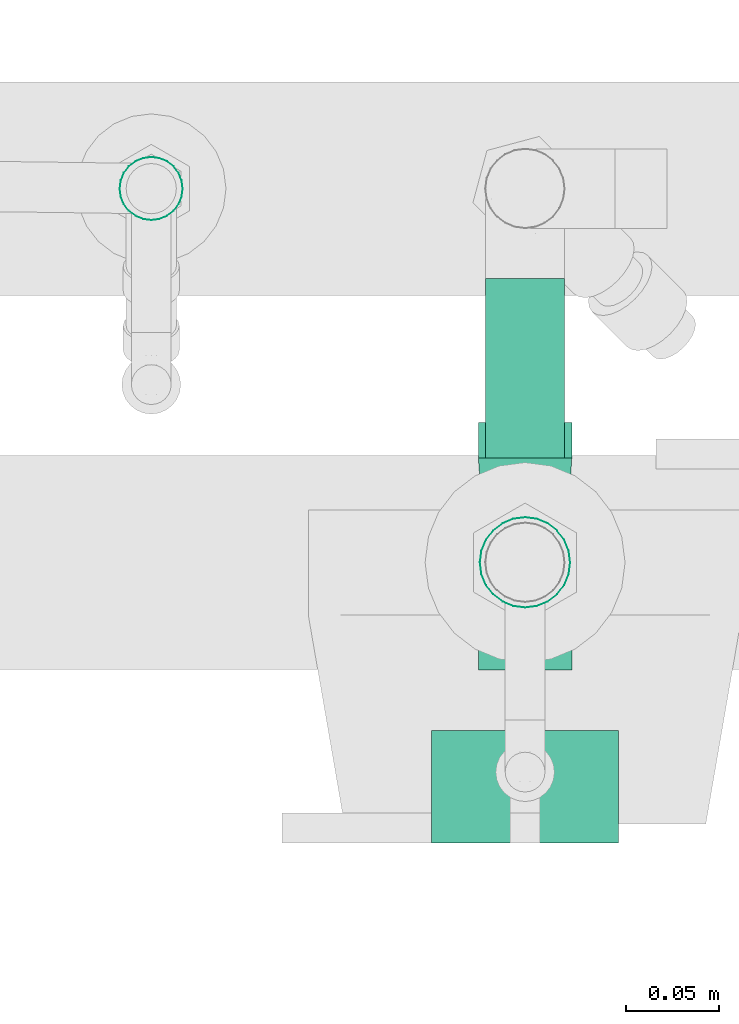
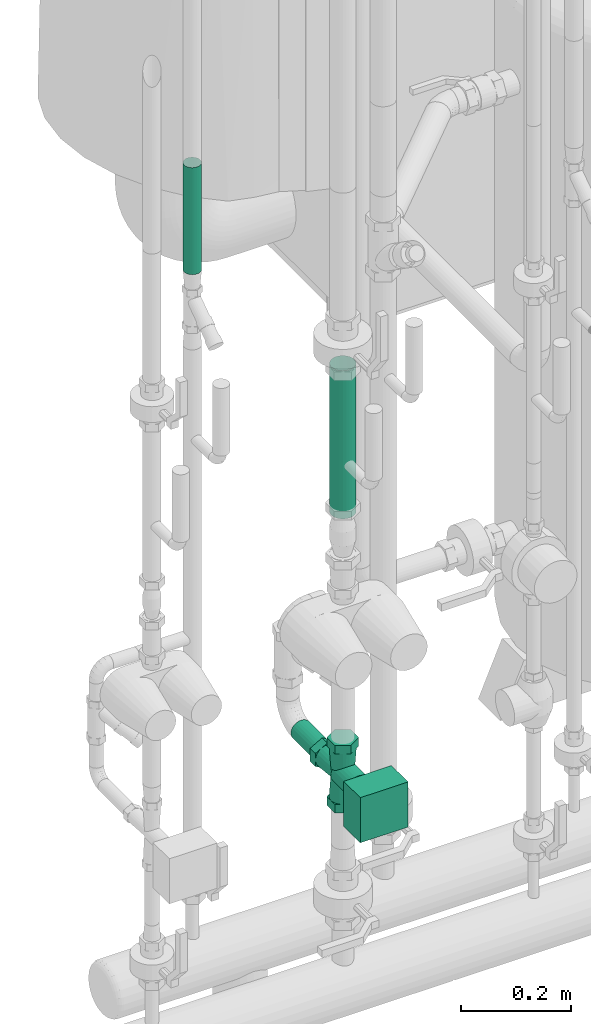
# One storey, part 257 of 374: 3 flow segments, 1 flow controller.
"""IFC2X3 building model written with IfcOpenShell, lengths in metres."""

from ifc_helpers import new_model, si_unit, direction, origin, place, context, subcontext, project, spatial, open_shell, surface_model, source, transform, mapped, element, save


model = new_model("IFC2X3")

# Units and contexts
model_context = context("Model", 3, precision=1e-05, world=origin(), true_north=direction((-0.4480736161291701, 0.8939966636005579)))
body_context = subcontext(model_context, "Body", "Model", "MODEL_VIEW")
ifc_project = project(units=[si_unit("LENGTHUNIT", "METRE"), si_unit("AREAUNIT", "SQUARE_METRE"), si_unit("VOLUMEUNIT", "CUBIC_METRE"), si_unit("PLANEANGLEUNIT", "RADIAN"), si_unit("THERMODYNAMICTEMPERATUREUNIT", "KELVIN"), si_unit("MASSUNIT", "GRAM", prefix="KILO"), si_unit("TIMEUNIT", "SECOND")], contexts=[model_context])

# Site, building, storey
site_placement = place(None, origin())
site = spatial("IfcSite", under=ifc_project, at=site_placement, Name="Site 1", CompositionType="ELEMENT")
building_placement = place(site_placement, origin())
building = spatial("IfcBuilding", under=site, at=building_placement, Name="Undefined", CompositionType="ELEMENT")
storey_placement = place(building_placement, origin())
storey = spatial("IfcBuildingStorey", under=building, at=storey_placement, Name="Rez de chauss\x8ee", CompositionType="ELEMENT", Elevation=0.0)

# Flow controller
shared_shape_1 = source(origin(), body_context, "Body", "SurfaceModel", [
    surface_model("IfcFaceBasedSurfaceModel", [(0.0, 0.09999999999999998, 0.0), (0.0, 0.0, 0.0), (0.10000000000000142, 8.8817842e-16, 1.776356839e-15), (0.10000000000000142, 0.09999999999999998, 0.0), (0.10000000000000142, 0.0, 0.05999999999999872), (0.10000000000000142, 0.09999999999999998, 0.05999999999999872), (0.0, 0.0, 0.05999999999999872), (0.0, 0.09999999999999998, 0.05999999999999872), (0.02499999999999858, 0.125, -0.1044337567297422), (0.02499999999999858, 0.125, -0.07556624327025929), (0.02499999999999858, 0.1059, -0.07556624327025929), (0.02499999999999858, 0.1059, -0.1044337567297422), (0.04999999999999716, 0.125, -0.11886751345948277), (0.04999999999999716, 0.1059, -0.11886751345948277), (0.07499999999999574, 0.125, -0.1044337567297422), (0.07499999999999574, 0.1059, -0.1044337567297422), (0.07499999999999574, 0.125, -0.07556624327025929), (0.07499999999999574, 0.1059, -0.07556624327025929), (0.04999999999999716, 0.125, -0.06113248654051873), (0.04999999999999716, 0.1059, -0.06113248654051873), (0.04999999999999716, 0.1059, -0.11500000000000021), (0.05647047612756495, 0.1059, -0.11414814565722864), (0.05548696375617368, 0.050000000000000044, -0.11047762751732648), (0.04999999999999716, 0.050000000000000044, -0.11119999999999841), (0.0625, 0.1059, -0.11165063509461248), (0.060600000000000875, 0.050000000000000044, -0.10835973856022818), (0.06767766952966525, 0.1059, -0.1076776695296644), (0.06499066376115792, 0.050000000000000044, -0.10499066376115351), (0.07165063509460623, 0.1059, -0.10250000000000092), (0.06835973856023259, 0.050000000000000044, -0.10060000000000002), (0.07414814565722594, 0.1059, -0.0964704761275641), (0.07047762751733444, 0.050000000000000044, -0.09548696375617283), (0.07499999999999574, 0.1059, -0.09000000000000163), (0.07120000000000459, 0.050000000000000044, -0.08999999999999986), (0.07414814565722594, 0.1059, -0.08352952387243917), (0.07047762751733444, 0.050000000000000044, -0.08451303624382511), (0.07165063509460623, 0.1059, -0.07750000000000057), (0.06835973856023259, 0.050000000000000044, -0.07939999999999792), (0.06767766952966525, 0.1059, -0.07232233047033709), (0.06499066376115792, 0.050000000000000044, -0.07500933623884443), (0.0625, 0.1059, -0.06834936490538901), (0.060600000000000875, 0.050000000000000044, -0.07164026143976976), (0.05647047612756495, 0.1059, -0.06585185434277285), (0.05548696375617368, 0.050000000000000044, -0.06952237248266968), (0.04999999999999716, 0.1059, -0.06500000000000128), (0.04999999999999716, 0.050000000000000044, -0.06879999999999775), (0.04352952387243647, 0.1059, -0.06585185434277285), (0.04451303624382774, 0.050000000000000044, -0.06952237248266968), (0.03750000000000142, 0.1059, -0.06834936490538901), (0.039400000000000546, 0.050000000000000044, -0.07164026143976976), (0.03232233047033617, 0.1059, -0.07232233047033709), (0.03500933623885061, 0.050000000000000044, -0.07500933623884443), (0.028349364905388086, 0.1059, -0.07750000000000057), (0.031640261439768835, 0.050000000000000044, -0.07939999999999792), (0.025851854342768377, 0.1059, -0.08352952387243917), (0.02952237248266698, 0.050000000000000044, -0.08451303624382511), (0.02499999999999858, 0.1059, -0.09000000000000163), (0.028800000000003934, 0.050000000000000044, -0.08999999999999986), (0.025851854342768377, 0.1059, -0.0964704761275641), (0.02952237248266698, 0.050000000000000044, -0.09548696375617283), (0.028349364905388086, 0.1059, -0.10250000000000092), (0.031640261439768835, 0.050000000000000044, -0.10060000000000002), (0.03232233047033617, 0.1059, -0.1076776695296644), (0.03500933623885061, 0.050000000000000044, -0.10499066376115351), (0.03750000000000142, 0.1059, -0.11165063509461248), (0.039400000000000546, 0.050000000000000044, -0.10835973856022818), (0.04352952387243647, 0.1059, -0.11414814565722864), (0.04451303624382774, 0.050000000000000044, -0.11047762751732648), (0.05647047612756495, -0.005899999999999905, -0.11414814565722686), (0.05000000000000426, -0.005899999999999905, -0.11500000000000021), (0.0625, -0.005899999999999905, -0.1116506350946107), (0.06767766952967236, -0.005899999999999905, -0.1076776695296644), (0.07165063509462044, -0.005899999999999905, -0.10250000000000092), (0.07414814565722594, -0.005899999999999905, -0.0964704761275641), (0.07499999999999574, -0.005899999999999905, -0.09000000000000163), (0.07414814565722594, -0.005899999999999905, -0.08352952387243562), (0.07165063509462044, -0.005899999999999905, -0.07749999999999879), (0.06767766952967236, -0.005899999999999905, -0.07232233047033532), (0.0625, -0.005899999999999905, -0.06834936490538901), (0.05647047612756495, -0.005899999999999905, -0.06585185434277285), (0.05000000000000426, -0.005899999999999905, -0.0649999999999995), (0.043529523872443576, -0.005899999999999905, -0.06585185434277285), (0.037500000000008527, -0.005899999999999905, -0.06834936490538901), (0.032322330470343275, -0.005899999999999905, -0.07232233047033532), (0.028349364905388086, -0.005899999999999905, -0.07749999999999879), (0.025851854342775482, -0.005899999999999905, -0.08352952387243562), (0.025000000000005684, -0.005899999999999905, -0.09000000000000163), (0.025851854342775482, -0.005899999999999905, -0.0964704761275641), (0.028349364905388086, -0.005899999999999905, -0.10250000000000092), (0.032322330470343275, -0.005899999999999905, -0.1076776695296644), (0.037500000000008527, -0.005899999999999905, -0.1116506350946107), (0.043529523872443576, -0.005899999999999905, -0.11414814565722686), (0.02499999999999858, -0.005900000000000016, -0.1044337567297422), (0.02499999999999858, -0.005900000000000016, -0.07556624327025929), (0.02499999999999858, -0.025000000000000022, -0.07556624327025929), (0.02499999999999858, -0.025000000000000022, -0.1044337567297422), (0.04999999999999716, -0.005900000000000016, -0.11886751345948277), (0.04999999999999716, -0.025000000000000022, -0.11886751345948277), (0.07499999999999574, -0.005900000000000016, -0.1044337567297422), (0.07499999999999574, -0.025000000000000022, -0.1044337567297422), (0.07499999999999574, -0.005900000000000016, -0.07556624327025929), (0.07499999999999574, -0.025000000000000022, -0.07556624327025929), (0.04999999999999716, -0.005900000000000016, -0.06113248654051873), (0.04999999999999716, -0.025000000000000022, -0.06113248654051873), (0.07499999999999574, 0.04999999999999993, -0.09000000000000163), (0.07414814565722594, 0.05647047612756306, -0.09000000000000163), (0.07414814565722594, 0.05647047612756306, -0.03250000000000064), (0.07499999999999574, 0.04999999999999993, -0.03250000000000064), (0.07165063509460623, 0.0625, -0.09000000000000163), (0.07165063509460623, 0.0625, -0.03250000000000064), (0.06767766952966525, 0.0676776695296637, -0.09000000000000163), (0.06767766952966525, 0.0676776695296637, -0.03250000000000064), (0.0625, 0.07165063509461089, -0.09000000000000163), (0.0625, 0.07165063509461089, -0.03250000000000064), (0.05647047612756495, 0.0741481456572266, -0.09000000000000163), (0.05647047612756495, 0.0741481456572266, -0.03250000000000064), (0.04999999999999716, 0.07499999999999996, -0.09000000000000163), (0.04999999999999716, 0.07499999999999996, -0.03250000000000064), (0.04352952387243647, 0.0741481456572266, -0.09000000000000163), (0.04352952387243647, 0.0741481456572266, -0.03250000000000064), (0.03750000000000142, 0.07165063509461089, -0.09000000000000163), (0.03750000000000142, 0.07165063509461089, -0.03250000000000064), (0.03232233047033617, 0.0676776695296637, -0.09000000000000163), (0.03232233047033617, 0.0676776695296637, -0.03250000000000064), (0.028349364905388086, 0.0625, -0.09000000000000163), (0.028349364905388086, 0.0625, -0.03250000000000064), (0.025851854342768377, 0.05647047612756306, -0.09000000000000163), (0.025851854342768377, 0.05647047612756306, -0.03250000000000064), (0.02499999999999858, 0.04999999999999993, -0.09000000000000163), (0.02499999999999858, 0.04999999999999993, -0.03250000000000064), (0.025851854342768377, 0.043529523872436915, -0.09000000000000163), (0.025851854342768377, 0.043529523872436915, -0.03250000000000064), (0.028349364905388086, 0.03749999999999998, -0.09000000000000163), (0.028349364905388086, 0.03749999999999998, -0.03250000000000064), (0.03232233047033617, 0.03232233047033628, -0.09000000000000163), (0.03232233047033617, 0.03232233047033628, -0.03250000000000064), (0.03750000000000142, 0.028349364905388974, -0.09000000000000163), (0.03750000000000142, 0.028349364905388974, -0.03250000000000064), (0.04352952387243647, 0.02585185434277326, -0.09000000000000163), (0.04352952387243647, 0.02585185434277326, -0.03250000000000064), (0.04999999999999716, 0.02499999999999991, -0.09000000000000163), (0.04999999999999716, 0.02499999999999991, -0.03250000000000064), (0.05647047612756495, 0.02585185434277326, -0.09000000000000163), (0.05647047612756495, 0.02585185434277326, -0.03250000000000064), (0.0625, 0.028349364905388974, -0.09000000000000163), (0.0625, 0.028349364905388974, -0.03250000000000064), (0.06767766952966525, 0.03232233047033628, -0.09000000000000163), (0.06767766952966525, 0.03232233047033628, -0.03250000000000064), (0.07165063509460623, 0.03749999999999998, -0.09000000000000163), (0.07165063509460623, 0.03749999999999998, -0.03250000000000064), (0.07414814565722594, 0.043529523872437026, -0.09000000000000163), (0.07414814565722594, 0.043529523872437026, -0.03250000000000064), (0.05000000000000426, 0.04999999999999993, -0.09000000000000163), (0.04999999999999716, 0.04999999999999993, -0.03250000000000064), (0.052499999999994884, 0.04999999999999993, -0.03250000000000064), (0.05176776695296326, 0.051767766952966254, -0.03250000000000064), (0.05176776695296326, 0.051767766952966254, 0.0), (0.052499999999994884, 0.04999999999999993, 0.0), (0.04999999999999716, 0.05249999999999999, -0.03250000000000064), (0.04999999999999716, 0.05249999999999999, 0.0), (0.04823223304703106, 0.051767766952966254, -0.03250000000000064), (0.04823223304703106, 0.051767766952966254, 0.0), (0.04749999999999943, 0.04999999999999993, -0.03250000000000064), (0.04749999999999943, 0.04999999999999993, 0.0), (0.04823223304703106, 0.04823223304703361, -0.03250000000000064), (0.04823223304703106, 0.04823223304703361, 0.0), (0.04999999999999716, 0.04749999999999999, -0.03250000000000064), (0.04999999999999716, 0.04749999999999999, 0.0), (0.05176776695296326, 0.04823223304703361, -0.03250000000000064), (0.05176776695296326, 0.04823223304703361, 0.0), (0.05000000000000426, 0.04999999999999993, 0.0), (0.04999999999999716, 0.07120000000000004, -0.09000000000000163), (0.055486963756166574, 0.07047762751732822, -0.09000000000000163), (0.056470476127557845, 0.07414814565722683, -0.14590000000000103), (0.04999999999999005, 0.07500000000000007, -0.14590000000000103), (0.06059999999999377, 0.06835973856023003, -0.09000000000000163), (0.062499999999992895, 0.071650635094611, -0.14590000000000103), (0.06499066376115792, 0.06499066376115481, -0.09000000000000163), (0.06767766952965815, 0.06767766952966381, -0.14590000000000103), (0.06835973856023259, 0.06059999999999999, -0.09000000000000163), (0.07165063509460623, 0.06250000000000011, -0.14590000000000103), (0.07047762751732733, 0.055486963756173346, -0.09000000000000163), (0.07414814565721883, 0.05647047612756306, -0.14590000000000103), (0.07499999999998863, 0.050000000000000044, -0.14590000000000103), (0.07047762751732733, 0.04451303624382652, -0.09000000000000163), (0.07414814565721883, 0.04352952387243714, -0.14590000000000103), (0.06835973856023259, 0.03939999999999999, -0.09000000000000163), (0.07165063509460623, 0.03750000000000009, -0.14590000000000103), (0.06499066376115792, 0.03500933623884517, -0.09000000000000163), (0.06767766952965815, 0.03232233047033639, -0.14590000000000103), (0.06059999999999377, 0.031640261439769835, -0.09000000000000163), (0.062499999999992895, 0.028349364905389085, -0.14590000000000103), (0.055486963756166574, 0.029522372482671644, -0.09000000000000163), (0.056470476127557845, 0.02585185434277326, -0.14590000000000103), (0.04999999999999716, 0.028799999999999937, -0.09000000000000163), (0.04999999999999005, 0.02499999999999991, -0.14590000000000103), (0.04451303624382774, 0.029522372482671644, -0.09000000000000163), (0.04352952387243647, 0.02585185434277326, -0.14590000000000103), (0.039400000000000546, 0.031640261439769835, -0.09000000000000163), (0.037499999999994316, 0.028349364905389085, -0.14590000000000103), (0.0350093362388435, 0.03500933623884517, -0.09000000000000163), (0.032322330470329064, 0.03232233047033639, -0.14590000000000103), (0.03164026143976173, 0.03939999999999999, -0.09000000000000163), (0.028349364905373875, 0.03750000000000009, -0.14590000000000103), (0.02952237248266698, 0.04451303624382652, -0.09000000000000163), (0.02585185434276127, 0.04352952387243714, -0.14590000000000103), (0.02499999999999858, 0.050000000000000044, -0.14590000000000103), (0.02952237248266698, 0.055486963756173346, -0.09000000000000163), (0.02585185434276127, 0.05647047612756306, -0.14590000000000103), (0.03164026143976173, 0.06059999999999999, -0.09000000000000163), (0.028349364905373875, 0.06250000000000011, -0.14590000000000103), (0.0350093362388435, 0.06499066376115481, -0.09000000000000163), (0.032322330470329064, 0.06767766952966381, -0.14590000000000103), (0.039400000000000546, 0.06835973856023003, -0.09000000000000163), (0.037499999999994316, 0.071650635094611, -0.14590000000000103), (0.04451303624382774, 0.07047762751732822, -0.09000000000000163), (0.04352952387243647, 0.07414814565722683, -0.14590000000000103), (0.02499999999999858, 0.03556624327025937, -0.14590000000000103), (0.04999999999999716, 0.02113248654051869, -0.14590000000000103), (0.04999999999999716, 0.02113248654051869, -0.16500000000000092), (0.02499999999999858, 0.03556624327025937, -0.16500000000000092), (0.02499999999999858, 0.06443375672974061, -0.14590000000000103), (0.02499999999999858, 0.06443375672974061, -0.16500000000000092), (0.04999999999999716, 0.07886751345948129, -0.14590000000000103), (0.04999999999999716, 0.07886751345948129, -0.16500000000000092), (0.07499999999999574, 0.06443375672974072, -0.14590000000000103), (0.07499999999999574, 0.06443375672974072, -0.16500000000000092), (0.07499999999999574, 0.03556624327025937, -0.14590000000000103), (0.07499999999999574, 0.03556624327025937, -0.16500000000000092)], [open_shell([[[0, 1, 2, 3]], [[3, 2, 4, 5]], [[5, 4, 6, 7]], [[7, 6, 1, 0]], [[0, 3, 5, 7]], [[6, 4, 2, 1]], [[8, 9, 10, 11]], [[12, 8, 11, 13]], [[14, 12, 13, 15]], [[16, 14, 15, 17]], [[18, 16, 17, 19]], [[9, 18, 19, 10]], [[9, 8, 12]], [[9, 12, 14]], [[9, 14, 16]], [[9, 16, 18]], [[10, 13, 11]], [[10, 15, 13]], [[10, 17, 15]], [[10, 19, 17]], [[20, 21, 22, 23]], [[21, 24, 25, 22]], [[24, 26, 27, 25]], [[26, 28, 29, 27]], [[28, 30, 31, 29]], [[30, 32, 33, 31]], [[32, 34, 35, 33]], [[34, 36, 37, 35]], [[36, 38, 39, 37]], [[38, 40, 41, 39]], [[40, 42, 43, 41]], [[42, 44, 45, 43]], [[44, 46, 47, 45]], [[46, 48, 49, 47]], [[48, 50, 51, 49]], [[50, 52, 53, 51]], [[52, 54, 55, 53]], [[54, 56, 57, 55]], [[56, 58, 59, 57]], [[58, 60, 61, 59]], [[60, 62, 63, 61]], [[62, 64, 65, 63]], [[64, 66, 67, 65]], [[66, 20, 23, 67]], [[23, 22, 68, 69]], [[22, 25, 70, 68]], [[25, 27, 71, 70]], [[27, 29, 72, 71]], [[29, 31, 73, 72]], [[31, 33, 74, 73]], [[33, 35, 75, 74]], [[35, 37, 76, 75]], [[37, 39, 77, 76]], [[39, 41, 78, 77]], [[41, 43, 79, 78]], [[43, 45, 80, 79]], [[45, 47, 81, 80]], [[47, 49, 82, 81]], [[49, 51, 83, 82]], [[51, 53, 84, 83]], [[53, 55, 85, 84]], [[55, 57, 86, 85]], [[57, 59, 87, 86]], [[59, 61, 88, 87]], [[61, 63, 89, 88]], [[63, 65, 90, 89]], [[65, 67, 91, 90]], [[67, 23, 69, 91]], [[92, 93, 94, 95]], [[96, 92, 95, 97]], [[98, 96, 97, 99]], [[100, 98, 99, 101]], [[102, 100, 101, 103]], [[93, 102, 103, 94]], [[93, 92, 96]], [[93, 96, 98]], [[93, 98, 100]], [[93, 100, 102]], [[94, 97, 95]], [[94, 99, 97]], [[94, 101, 99]], [[94, 103, 101]], [[104, 105, 106, 107]], [[105, 108, 109, 106]], [[108, 110, 111, 109]], [[110, 112, 113, 111]], [[112, 114, 115, 113]], [[114, 116, 117, 115]], [[116, 118, 119, 117]], [[118, 120, 121, 119]], [[120, 122, 123, 121]], [[122, 124, 125, 123]], [[124, 126, 127, 125]], [[126, 128, 129, 127]], [[128, 130, 131, 129]], [[130, 132, 133, 131]], [[132, 134, 135, 133]], [[134, 136, 137, 135]], [[136, 138, 139, 137]], [[138, 140, 141, 139]], [[140, 142, 143, 141]], [[142, 144, 145, 143]], [[144, 146, 147, 145]], [[146, 148, 149, 147]], [[148, 150, 151, 149]], [[150, 104, 107, 151]], [[152, 105, 104]], [[152, 108, 105]], [[152, 110, 108]], [[152, 112, 110]], [[152, 114, 112]], [[152, 116, 114]], [[152, 118, 116]], [[152, 120, 118]], [[152, 122, 120]], [[152, 124, 122]], [[152, 126, 124]], [[152, 128, 126]], [[152, 130, 128]], [[152, 132, 130]], [[152, 134, 132]], [[152, 136, 134]], [[152, 138, 136]], [[152, 140, 138]], [[152, 142, 140]], [[152, 144, 142]], [[152, 146, 144]], [[152, 148, 146]], [[152, 150, 148]], [[152, 104, 150]], [[153, 151, 107]], [[153, 149, 151]], [[153, 147, 149]], [[153, 145, 147]], [[153, 143, 145]], [[153, 141, 143]], [[153, 139, 141]], [[153, 137, 139]], [[153, 135, 137]], [[153, 133, 135]], [[153, 131, 133]], [[153, 129, 131]], [[153, 127, 129]], [[153, 125, 127]], [[153, 123, 125]], [[153, 121, 123]], [[153, 119, 121]], [[153, 117, 119]], [[153, 115, 117]], [[153, 113, 115]], [[153, 111, 113]], [[153, 109, 111]], [[153, 106, 109]], [[153, 107, 106]], [[154, 155, 156, 157]], [[155, 158, 159, 156]], [[158, 160, 161, 159]], [[160, 162, 163, 161]], [[162, 164, 165, 163]], [[164, 166, 167, 165]], [[166, 168, 169, 167]], [[168, 154, 157, 169]], [[170, 169, 157]], [[170, 167, 169]], [[170, 165, 167]], [[170, 163, 165]], [[170, 161, 163]], [[170, 159, 161]], [[170, 156, 159]], [[170, 157, 156]], [[171, 172, 173, 174]], [[172, 175, 176, 173]], [[175, 177, 178, 176]], [[177, 179, 180, 178]], [[179, 181, 182, 180]], [[181, 33, 183, 182]], [[33, 184, 185, 183]], [[184, 186, 187, 185]], [[186, 188, 189, 187]], [[188, 190, 191, 189]], [[190, 192, 193, 191]], [[192, 194, 195, 193]], [[194, 196, 197, 195]], [[196, 198, 199, 197]], [[198, 200, 201, 199]], [[200, 202, 203, 201]], [[202, 204, 205, 203]], [[204, 57, 206, 205]], [[57, 207, 208, 206]], [[207, 209, 210, 208]], [[209, 211, 212, 210]], [[211, 213, 214, 212]], [[213, 215, 216, 214]], [[215, 171, 174, 216]], [[217, 218, 219, 220]], [[221, 217, 220, 222]], [[223, 221, 222, 224]], [[225, 223, 224, 226]], [[227, 225, 226, 228]], [[218, 227, 228, 219]], [[218, 217, 221]], [[218, 221, 223]], [[218, 223, 225]], [[218, 225, 227]], [[219, 222, 220]], [[219, 224, 222]], [[219, 226, 224]], [[219, 228, 226]]])]),
])
flow_controller_placement = place(storey_placement, origin())
element("IfcFlowController", 1, at=flow_controller_placement, inside=storey, Name="Vanne 3 voies", ObjectType="Vanne 3 voies", context=body_context, shape_type="MappedRepresentation", body=[
    mapped(shared_shape_1, transform((52.5075620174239, 10.628037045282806, 0.8217512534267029), x_axis=(-1.0, 0.0, 0.0), y_axis=(0.0, 0.0, -1.0), z_axis=(0.0, -1.0, 0.0))),
])

# Flow segments
shared_shape_2 = source(origin(), body_context, "Body", "SurfaceModel", [
    surface_model("IfcFaceBasedSurfaceModel", [(0.0, 0.006304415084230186, 7.105427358e-15), (0.0, 0.0, 0.0), (0.32814156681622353, 8.8817842e-16, 7.105427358e-15), (0.32814156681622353, 0.006304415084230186, 7.105427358e-15), (0.0, -0.006089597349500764, -0.0016317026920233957), (0.32814156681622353, -0.006089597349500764, -0.0016317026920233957), (0.0, -0.011549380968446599, -0.004783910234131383), (0.32814156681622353, -0.011549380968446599, -0.004783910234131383), (0.0, -0.016007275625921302, -0.009241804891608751), (0.32814156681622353, -0.016007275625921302, -0.009241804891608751), (0.0, -0.01915948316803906, -0.014701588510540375), (0.32814156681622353, -0.01915948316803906, -0.014701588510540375), (0.0, -0.020791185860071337, -0.020791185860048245), (0.32814156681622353, -0.020791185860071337, -0.020791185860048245), (0.0, -0.020791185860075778, -0.027095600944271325), (0.32814156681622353, -0.020791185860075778, -0.027095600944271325), (0.0, -0.01915948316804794, -0.03318519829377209), (0.32814156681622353, -0.01915948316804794, -0.03318519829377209), (0.0, -0.01600727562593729, -0.038644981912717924), (0.32814156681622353, -0.01600727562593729, -0.038644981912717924), (0.0, -0.011549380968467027, -0.0431028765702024), (0.32814156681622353, -0.011549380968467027, -0.0431028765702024), (0.0, -0.006089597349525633, -0.04625508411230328), (0.32814156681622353, -0.006089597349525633, -0.04625508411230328), (0.0, -2.4868995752e-14, -0.04788678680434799), (0.32814156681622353, -2.4868995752e-14, -0.04788678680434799), (0.0, 0.006304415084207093, -0.047886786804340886), (0.32814156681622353, 0.006304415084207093, -0.047886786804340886), (0.0, 0.012394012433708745, -0.046255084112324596), (0.32814156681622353, 0.012394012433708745, -0.046255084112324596), (0.0, 0.01785379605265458, -0.0431028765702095), (0.32814156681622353, 0.01785379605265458, -0.0431028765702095), (0.0, 0.022311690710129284, -0.03864498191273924), (0.32814156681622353, 0.022311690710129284, -0.03864498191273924), (0.0, 0.02546389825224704, -0.03318519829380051), (0.32814156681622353, 0.02546389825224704, -0.03318519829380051), (0.0, 0.02709560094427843, -0.027095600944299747), (0.32814156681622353, 0.02709560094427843, -0.027095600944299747), (0.0, 0.02709560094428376, -0.02079118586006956), (0.32814156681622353, 0.02709560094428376, -0.02079118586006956), (0.0, 0.025463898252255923, -0.014701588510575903), (0.32814156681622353, 0.025463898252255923, -0.014701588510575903), (0.0, 0.02231169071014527, -0.009241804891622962), (0.32814156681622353, 0.02231169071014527, -0.009241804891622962), (0.0, 0.01785379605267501, -0.004783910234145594), (0.32814156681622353, 0.01785379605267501, -0.004783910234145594), (0.0, 0.012394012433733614, -0.0016317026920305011), (0.32814156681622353, 0.012394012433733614, -0.0016317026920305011)], [open_shell([[[0, 1, 2, 3]], [[1, 4, 5, 2]], [[4, 6, 7, 5]], [[6, 8, 9, 7]], [[8, 10, 11, 9]], [[10, 12, 13, 11]], [[12, 14, 15, 13]], [[14, 16, 17, 15]], [[16, 18, 19, 17]], [[18, 20, 21, 19]], [[20, 22, 23, 21]], [[22, 24, 25, 23]], [[24, 26, 27, 25]], [[26, 28, 29, 27]], [[28, 30, 31, 29]], [[30, 32, 33, 31]], [[32, 34, 35, 33]], [[34, 36, 37, 35]], [[36, 38, 39, 37]], [[38, 40, 41, 39]], [[40, 42, 43, 41]], [[42, 44, 45, 43]], [[44, 46, 47, 45]], [[46, 0, 3, 47]]])]),
])
flow_segment_1_placement = place(storey_placement, origin())
element("IfcFlowSegment", 2, at=flow_segment_1_placement, inside=storey, Name="Tube acier d'après DIN 2448", ObjectType="Tube acier d'après DIN 2448", context=body_context, shape_type="MappedRepresentation", body=[
    mapped(shared_shape_2, transform((52.48088912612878, 10.724287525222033, 1.3479475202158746), x_axis=(0.0, 0.0, 1.0), y_axis=(0.13052619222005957, -0.9914448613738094, 0.0), z_axis=(0.9914448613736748, 0.13052619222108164, 0.0))),
])
shared_shape_3 = source(origin(), body_context, "Body", "SurfaceModel", [
    surface_model("IfcFaceBasedSurfaceModel", [(0.0, 0.005534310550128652, 0.0), (0.0, 0.0, 0.0), (0.09609999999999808, 0.0, 0.0), (0.09609999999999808, 0.00553431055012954, -7.105427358e-15), (0.0, -0.00534573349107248, -0.0014323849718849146), (0.09609999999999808, -0.005345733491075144, -0.0014323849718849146), (0.0, -0.010138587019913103, -0.004199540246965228), (0.09609999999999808, -0.010138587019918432, -0.004199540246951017), (0.0, -0.01405193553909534, -0.008112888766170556), (0.09609999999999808, -0.014051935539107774, -0.008112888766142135), (0.0, -0.016819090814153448, -0.012905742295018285), (0.09609999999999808, -0.01681909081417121, -0.012905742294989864), (0.0, -0.018251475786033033, -0.018251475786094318), (0.09609999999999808, -0.01825147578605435, -0.018251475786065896), (0.0, -0.0182514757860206, -0.02378578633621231), (0.09609999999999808, -0.018251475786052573, -0.023785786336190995), (0.0, -0.01681909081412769, -0.029131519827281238), (0.09609999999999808, -0.01681909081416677, -0.029131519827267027), (0.0, -0.014051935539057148, -0.03392437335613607), (0.09609999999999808, -0.01405193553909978, -0.033924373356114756), (0.0, -0.010138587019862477, -0.037837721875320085), (0.09609999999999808, -0.010138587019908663, -0.037837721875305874), (0.0, -0.005345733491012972, -0.040604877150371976), (0.09609999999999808, -0.00534573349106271, -0.04060487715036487), (0.0, 6.4837024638e-14, -0.042037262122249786), (0.09609999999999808, 1.2434497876e-14, -0.042037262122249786), (0.0, 0.005534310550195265, -0.04203726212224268), (0.09609999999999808, 0.005534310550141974, -0.042037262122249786), (0.0, 0.010880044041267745, -0.04060487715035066), (0.09609999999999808, 0.01088004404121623, -0.04060487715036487), (0.0, 0.01567289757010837, -0.03783772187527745), (0.09609999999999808, 0.015672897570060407, -0.03783772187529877), (0.0, 0.019586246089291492, -0.033924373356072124), (0.09609999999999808, 0.01958624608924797, -0.033924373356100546), (0.0, 0.0223534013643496, -0.029131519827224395), (0.09609999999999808, 0.022353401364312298, -0.029131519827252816), (0.0, 0.02378578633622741, -0.023785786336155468), (0.09609999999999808, 0.023785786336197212, -0.02378578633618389), (0.0, 0.023785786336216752, -0.01825147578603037), (0.09609999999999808, 0.023785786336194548, -0.018251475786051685), (0.0, 0.022353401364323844, -0.012905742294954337), (0.09609999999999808, 0.02235340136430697, -0.012905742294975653), (0.0, 0.019586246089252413, -0.008112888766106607), (0.09609999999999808, 0.019586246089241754, -0.008112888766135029), (0.0, 0.015672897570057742, -0.004199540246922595), (0.09609999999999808, 0.015672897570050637, -0.004199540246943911), (0.0, 0.010880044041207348, -0.0014323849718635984), (0.09609999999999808, 0.010880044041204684, -0.0014323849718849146)], [open_shell([[[0, 1, 2, 3]], [[1, 4, 5, 2]], [[4, 6, 7, 5]], [[6, 8, 9, 7]], [[8, 10, 11, 9]], [[10, 12, 13, 11]], [[12, 14, 15, 13]], [[14, 16, 17, 15]], [[16, 18, 19, 17]], [[18, 20, 21, 19]], [[20, 22, 23, 21]], [[22, 24, 25, 23]], [[24, 26, 27, 25]], [[26, 28, 29, 27]], [[28, 30, 31, 29]], [[30, 32, 33, 31]], [[32, 34, 35, 33]], [[34, 36, 37, 35]], [[36, 38, 39, 37]], [[38, 40, 41, 39]], [[40, 42, 43, 41]], [[42, 44, 45, 43]], [[44, 46, 47, 45]], [[46, 0, 3, 47]]])]),
])
flow_segment_2_placement = place(storey_placement, origin())
element("IfcFlowSegment", 3, at=flow_segment_2_placement, inside=storey, Name="Tube acier d'après DIN 2448", ObjectType="Tube acier d'après DIN 2448", context=body_context, shape_type="MappedRepresentation", body=[
    mapped(shared_shape_3, transform((52.4780396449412, 10.773937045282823, 0.7662642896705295), x_axis=(0.0, 1.0, 0.0), y_axis=(0.1305261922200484, 0.0, 0.9914448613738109), z_axis=(0.9914448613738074, 0.0, -0.13052619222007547))),
])
shared_shape_4 = source(origin(), body_context, "Body", "SurfaceModel", [
    surface_model("IfcFaceBasedSurfaceModel", [(0.0, 0.004398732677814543, 0.0), (0.0, 0.0, 0.0), (0.23703882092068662, -8.8817842e-16, -7.105427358e-15), (0.23703882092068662, 0.004398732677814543, -7.105427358e-15), (0.0, -0.004248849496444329, -0.00113847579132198), (0.23703882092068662, -0.004248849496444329, -0.0011384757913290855), (0.0, -0.008058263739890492, -0.003337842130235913), (0.23703882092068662, -0.008058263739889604, -0.0033378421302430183), (0.0, -0.01116863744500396, -0.0064482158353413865), (0.23703882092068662, -0.01116863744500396, -0.006448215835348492), (0.0, -0.013368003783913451, -0.010257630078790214), (0.23703882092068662, -0.013368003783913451, -0.01025763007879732), (0.0, -0.014506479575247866, -0.014506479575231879), (0.23703882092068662, -0.014506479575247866, -0.014506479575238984), (0.0, -0.01450647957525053, -0.01890521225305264), (0.23703882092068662, -0.014506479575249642, -0.01890521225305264), (0.0, -0.013368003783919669, -0.023154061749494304), (0.23703882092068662, -0.013368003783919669, -0.02315406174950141), (0.0, -0.011168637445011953, -0.02696347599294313), (0.23703882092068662, -0.011168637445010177, -0.02696347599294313), (0.0, -0.008058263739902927, -0.03007384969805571), (0.23703882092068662, -0.008058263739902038, -0.03007384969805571), (0.0, -0.004248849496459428, -0.03227321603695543), (0.23703882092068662, -0.004248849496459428, -0.03227321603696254), (0.0, -1.5099033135e-14, -0.03341169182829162), (0.23703882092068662, -1.5099033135e-14, -0.03341169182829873), (0.0, 0.00439873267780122, -0.03341169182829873), (0.23703882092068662, 0.004398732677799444, -0.03341169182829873), (0.0, 0.008647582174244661, -0.03227321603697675), (0.23703882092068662, 0.008647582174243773, -0.03227321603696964), (0.0, 0.012456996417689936, -0.030073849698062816), (0.23703882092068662, 0.012456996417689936, -0.030073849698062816), (0.0, 0.01556737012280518, -0.026963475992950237), (0.23703882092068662, 0.015567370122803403, -0.026963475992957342), (0.0, 0.017766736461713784, -0.023154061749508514), (0.23703882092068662, 0.01776673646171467, -0.023154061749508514), (0.0, 0.018905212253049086, -0.01890521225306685), (0.23703882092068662, 0.01890521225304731, -0.01890521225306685), (0.0, 0.018905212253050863, -0.01450647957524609), (0.23703882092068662, 0.018905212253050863, -0.014506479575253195), (0.0, 0.01776673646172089, -0.01025763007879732), (0.23703882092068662, 0.017766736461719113, -0.010257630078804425), (0.0, 0.015567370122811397, -0.006448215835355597), (0.23703882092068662, 0.015567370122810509, -0.006448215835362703), (0.0, 0.012456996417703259, -0.0033378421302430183), (0.23703882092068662, 0.012456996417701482, -0.0033378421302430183), (0.0, 0.00864758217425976, -0.0011384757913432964), (0.23703882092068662, 0.008647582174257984, -0.0011384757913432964)], [open_shell([[[0, 1, 2, 3]], [[1, 4, 5, 2]], [[4, 6, 7, 5]], [[6, 8, 9, 7]], [[8, 10, 11, 9]], [[10, 12, 13, 11]], [[12, 14, 15, 13]], [[14, 16, 17, 15]], [[16, 18, 19, 17]], [[18, 20, 21, 19]], [[20, 22, 23, 21]], [[22, 24, 25, 23]], [[24, 26, 27, 25]], [[26, 28, 29, 27]], [[28, 30, 31, 29]], [[30, 32, 33, 31]], [[32, 34, 35, 33]], [[34, 36, 37, 35]], [[36, 38, 39, 37]], [[38, 40, 41, 39]], [[40, 42, 43, 41]], [[42, 44, 45, 43]], [[44, 46, 47, 45]], [[46, 0, 3, 47]]])]),
])
flow_segment_3_placement = place(storey_placement, origin())
element("IfcFlowSegment", 4, at=flow_segment_3_placement, inside=storey, Name="Tube acier d'après DIN 2448", ObjectType="Tube acier d'après DIN 2448", context=body_context, shape_type="MappedRepresentation", body=[
    mapped(shared_shape_4, transform((52.24128616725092, 10.913675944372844, 1.832489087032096), x_axis=(0.0, 0.0, 1.0), y_axis=(-0.13052619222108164, 0.9914448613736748, 0.0), z_axis=(-0.9914448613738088, -0.13052619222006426, 0.0))),
])

save(model, "model.ifc")
